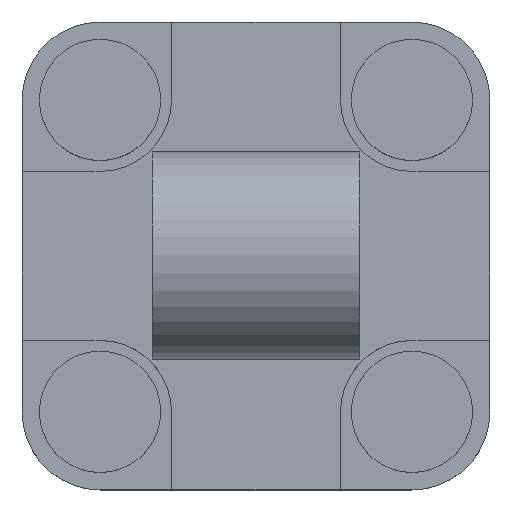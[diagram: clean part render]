
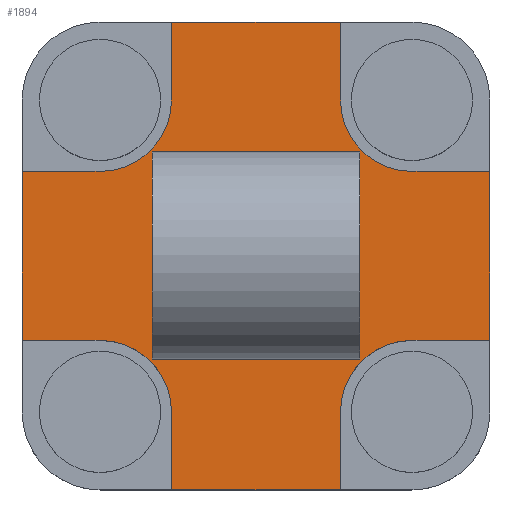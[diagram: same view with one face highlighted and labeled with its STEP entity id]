
A CAD part, top view. The second image highlights one B-rep face of the part: STEP entity #1894.
In plain terms, the highlighted planar face has unit normal (0, 0, 1).
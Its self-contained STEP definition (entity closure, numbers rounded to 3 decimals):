
#204=DIRECTION('',(0.,-1.,0.));
#205=VECTOR('',#204,12.);
#206=CARTESIAN_POINT('',(-6.,6.,6.));
#207=LINE('',#206,#205);
#211=DIRECTION('',(1.,0.,0.));
#212=VECTOR('',#211,12.);
#213=CARTESIAN_POINT('',(-6.,-6.,6.));
#214=LINE('',#213,#212);
#218=DIRECTION('',(1.,0.,0.));
#219=VECTOR('',#218,4.5);
#220=CARTESIAN_POINT('',(-13.5,-4.875,6.));
#221=LINE('',#220,#219);
#225=DIRECTION('',(0.,1.,0.));
#226=VECTOR('',#225,9.75);
#227=CARTESIAN_POINT('',(-13.5,-4.875,6.));
#228=LINE('',#227,#226);
#232=DIRECTION('',(1.,0.,0.));
#233=VECTOR('',#232,4.5);
#234=CARTESIAN_POINT('',(-13.5,4.875,6.));
#235=LINE('',#234,#233);
#239=CARTESIAN_POINT('',(-9.,9.,6.));
#240=DIRECTION('',(0.,0.,-1.));
#241=DIRECTION('',(1.,0.,0.));
#242=AXIS2_PLACEMENT_3D('',#239,#240,#241);
#247=DIRECTION('',(0.,-1.,0.));
#248=VECTOR('',#247,4.5);
#249=CARTESIAN_POINT('',(-4.875,13.5,6.));
#250=LINE('',#249,#248);
#254=DIRECTION('',(1.,0.,0.));
#255=VECTOR('',#254,9.75);
#256=CARTESIAN_POINT('',(-4.875,13.5,6.));
#257=LINE('',#256,#255);
#261=DIRECTION('',(0.,-1.,0.));
#262=VECTOR('',#261,4.5);
#263=CARTESIAN_POINT('',(4.875,13.5,6.));
#264=LINE('',#263,#262);
#268=CARTESIAN_POINT('',(9.,9.,6.));
#269=DIRECTION('',(0.,0.,-1.));
#270=DIRECTION('',(0.,-1.,0.));
#271=AXIS2_PLACEMENT_3D('',#268,#269,#270);
#276=DIRECTION('',(-1.,0.,0.));
#277=VECTOR('',#276,4.5);
#278=CARTESIAN_POINT('',(13.5,4.875,6.));
#279=LINE('',#278,#277);
#283=DIRECTION('',(0.,-1.,0.));
#284=VECTOR('',#283,9.75);
#285=CARTESIAN_POINT('',(13.5,4.875,6.));
#286=LINE('',#285,#284);
#290=DIRECTION('',(-1.,0.,0.));
#291=VECTOR('',#290,4.5);
#292=CARTESIAN_POINT('',(13.5,-4.875,6.));
#293=LINE('',#292,#291);
#297=CARTESIAN_POINT('',(9.,-9.,6.));
#298=DIRECTION('',(0.,0.,-1.));
#299=DIRECTION('',(-1.,0.,0.));
#300=AXIS2_PLACEMENT_3D('',#297,#298,#299);
#305=DIRECTION('',(0.,1.,0.));
#306=VECTOR('',#305,4.5);
#307=CARTESIAN_POINT('',(4.875,-13.5,6.));
#308=LINE('',#307,#306);
#312=DIRECTION('',(0.,1.,0.));
#313=VECTOR('',#312,4.5);
#314=CARTESIAN_POINT('',(-4.875,-13.5,6.));
#315=LINE('',#314,#313);
#319=CARTESIAN_POINT('',(-9.,-9.,6.));
#320=DIRECTION('',(0.,0.,-1.));
#321=DIRECTION('',(0.,1.,0.));
#322=AXIS2_PLACEMENT_3D('',#319,#320,#321);
#350=DIRECTION('',(1.,0.,0.));
#351=VECTOR('',#350,12.);
#352=CARTESIAN_POINT('',(-6.,6.,6.));
#353=LINE('',#352,#351);
#364=DIRECTION('',(0.,-1.,0.));
#365=VECTOR('',#364,12.);
#366=CARTESIAN_POINT('',(6.,6.,6.));
#367=LINE('',#366,#365);
#704=DIRECTION('',(1.,0.,0.));
#705=VECTOR('',#704,9.75);
#706=CARTESIAN_POINT('',(-4.875,-13.5,6.));
#707=LINE('',#706,#705);
#1452=CARTESIAN_POINT('',(-6.,6.,6.));
#1454=VERTEX_POINT('',#1452);
#1456=CARTESIAN_POINT('',(6.,6.,6.));
#1458=VERTEX_POINT('',#1456);
#1463=CARTESIAN_POINT('',(-6.,-6.,6.));
#1464=VERTEX_POINT('',#1463);
#1465=CARTESIAN_POINT('',(6.,-6.,6.));
#1466=VERTEX_POINT('',#1465);
#1539=CARTESIAN_POINT('',(-13.5,-4.875,6.));
#1540=VERTEX_POINT('',#1539);
#1541=CARTESIAN_POINT('',(-13.5,4.875,6.));
#1542=VERTEX_POINT('',#1541);
#1551=CARTESIAN_POINT('',(13.5,4.875,6.));
#1552=VERTEX_POINT('',#1551);
#1553=CARTESIAN_POINT('',(13.5,-4.875,6.));
#1554=VERTEX_POINT('',#1553);
#1563=CARTESIAN_POINT('',(-4.875,13.5,6.));
#1564=VERTEX_POINT('',#1563);
#1565=CARTESIAN_POINT('',(4.875,13.5,6.));
#1566=VERTEX_POINT('',#1565);
#1567=CARTESIAN_POINT('',(-9.,-4.875,6.));
#1568=VERTEX_POINT('',#1567);
#1569=CARTESIAN_POINT('',(-4.875,-9.,6.));
#1570=VERTEX_POINT('',#1569);
#1571=CARTESIAN_POINT('',(-4.875,-13.5,6.));
#1572=VERTEX_POINT('',#1571);
#1573=CARTESIAN_POINT('',(-4.875,9.,6.));
#1574=VERTEX_POINT('',#1573);
#1575=CARTESIAN_POINT('',(-9.,4.875,6.));
#1576=VERTEX_POINT('',#1575);
#1577=CARTESIAN_POINT('',(9.,4.875,6.));
#1578=VERTEX_POINT('',#1577);
#1579=CARTESIAN_POINT('',(4.875,9.,6.));
#1580=VERTEX_POINT('',#1579);
#1581=CARTESIAN_POINT('',(4.875,-13.5,6.));
#1582=CARTESIAN_POINT('',(4.875,-9.,6.));
#1583=VERTEX_POINT('',#1581);
#1584=VERTEX_POINT('',#1582);
#1585=CARTESIAN_POINT('',(9.,-4.875,6.));
#1586=VERTEX_POINT('',#1585);
#1847=CARTESIAN_POINT('',(-13.5,13.5,6.));
#1848=DIRECTION('',(0.,0.,1.));
#1849=DIRECTION('',(0.,-1.,0.));
#1850=AXIS2_PLACEMENT_3D('',#1847,#1848,#1849);
#1851=PLANE('',#1850);
#1852=ORIENTED_EDGE('',*,*,#1839,.F.);
#1853=ORIENTED_EDGE('',*,*,#1724,.T.);
#1855=ORIENTED_EDGE('',*,*,#1854,.T.);
#1857=ORIENTED_EDGE('',*,*,#1856,.F.);
#1859=ORIENTED_EDGE('',*,*,#1858,.F.);
#1861=ORIENTED_EDGE('',*,*,#1860,.T.);
#1863=ORIENTED_EDGE('',*,*,#1862,.T.);
#1865=ORIENTED_EDGE('',*,*,#1864,.F.);
#1867=ORIENTED_EDGE('',*,*,#1866,.F.);
#1869=ORIENTED_EDGE('',*,*,#1868,.T.);
#1871=ORIENTED_EDGE('',*,*,#1870,.T.);
#1873=ORIENTED_EDGE('',*,*,#1872,.F.);
#1875=ORIENTED_EDGE('',*,*,#1874,.F.);
#1877=ORIENTED_EDGE('',*,*,#1876,.F.);
#1879=ORIENTED_EDGE('',*,*,#1878,.T.);
#1881=ORIENTED_EDGE('',*,*,#1880,.F.);
#1882=EDGE_LOOP('',(#1852,#1853,#1855,#1857,#1859,#1861,#1863,#1865,#1867,#1869,
#1871,#1873,#1875,#1877,#1879,#1881));
#1883=FACE_OUTER_BOUND('',#1882,.F.);
#1885=ORIENTED_EDGE('',*,*,#1884,.T.);
#1887=ORIENTED_EDGE('',*,*,#1886,.T.);
#1889=ORIENTED_EDGE('',*,*,#1888,.F.);
#1891=ORIENTED_EDGE('',*,*,#1890,.F.);
#1892=EDGE_LOOP('',(#1885,#1887,#1889,#1891));
#1893=FACE_BOUND('',#1892,.F.);
#1894=ADVANCED_FACE('',(#1883,#1893),#1851,.T.);
#243=CIRCLE('',#242,4.125);
#272=CIRCLE('',#271,4.125);
#301=CIRCLE('',#300,4.125);
#323=CIRCLE('',#322,4.125);
#1724=EDGE_CURVE('',#1540,#1542,#228,.T.);
#1839=EDGE_CURVE('',#1540,#1568,#221,.T.);
#1854=EDGE_CURVE('',#1542,#1576,#235,.T.);
#1856=EDGE_CURVE('',#1574,#1576,#243,.T.);
#1858=EDGE_CURVE('',#1564,#1574,#250,.T.);
#1860=EDGE_CURVE('',#1564,#1566,#257,.T.);
#1862=EDGE_CURVE('',#1566,#1580,#264,.T.);
#1864=EDGE_CURVE('',#1578,#1580,#272,.T.);
#1866=EDGE_CURVE('',#1552,#1578,#279,.T.);
#1868=EDGE_CURVE('',#1552,#1554,#286,.T.);
#1870=EDGE_CURVE('',#1554,#1586,#293,.T.);
#1872=EDGE_CURVE('',#1584,#1586,#301,.T.);
#1874=EDGE_CURVE('',#1583,#1584,#308,.T.);
#1876=EDGE_CURVE('',#1572,#1583,#707,.T.);
#1878=EDGE_CURVE('',#1572,#1570,#315,.T.);
#1880=EDGE_CURVE('',#1568,#1570,#323,.T.);
#1884=EDGE_CURVE('',#1454,#1464,#207,.T.);
#1886=EDGE_CURVE('',#1464,#1466,#214,.T.);
#1888=EDGE_CURVE('',#1458,#1466,#367,.T.);
#1890=EDGE_CURVE('',#1454,#1458,#353,.T.);
